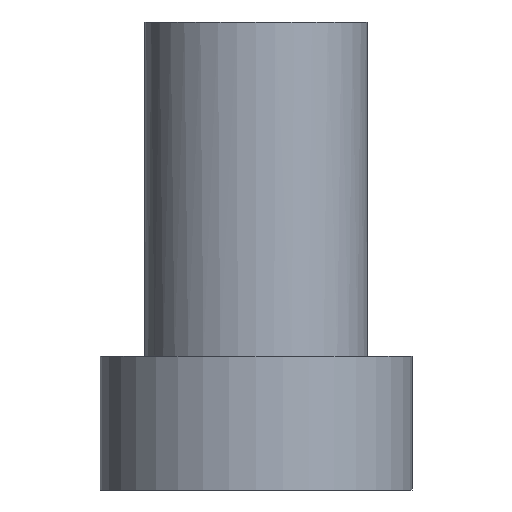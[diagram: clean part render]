
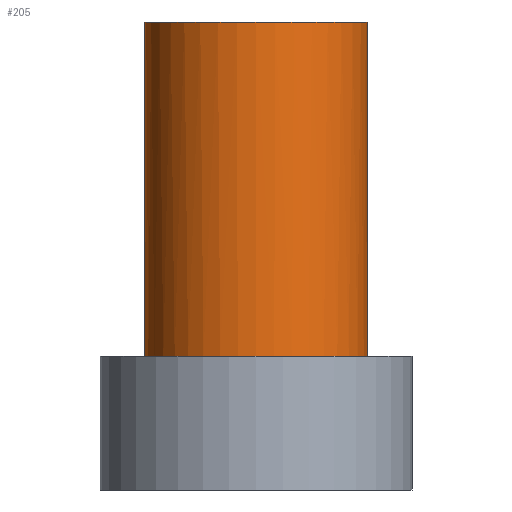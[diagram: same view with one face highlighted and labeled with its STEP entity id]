
A CAD part, left-side view. The second image highlights one B-rep face of the part: STEP entity #205.
In plain terms, the highlighted cylindrical face has radius 5 mm (diameter 10 mm), a full revolution.
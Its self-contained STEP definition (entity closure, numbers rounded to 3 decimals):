
#17=CYLINDRICAL_SURFACE('',#231,5.);
#34=LINE('',#334,#55);
#35=LINE('',#337,#56);
#36=LINE('',#341,#57);
#55=VECTOR('',#272,10.);
#56=VECTOR('',#275,5.);
#57=VECTOR('',#278,10.);
#67=FACE_OUTER_BOUND('',#78,.T.);
#78=EDGE_LOOP('',(#157,#158,#159,#160,#161,#162,#163,#164));
#85=CIRCLE('',#225,5.);
#86=CIRCLE('',#232,5.);
#87=CIRCLE('',#233,5.);
#88=CIRCLE('',#234,5.);
#91=VERTEX_POINT('',#300);
#101=VERTEX_POINT('',#328);
#103=VERTEX_POINT('',#332);
#104=VERTEX_POINT('',#336);
#105=VERTEX_POINT('',#338);
#106=VERTEX_POINT('',#340);
#109=EDGE_CURVE('',#91,#91,#85,.T.);
#125=EDGE_CURVE('',#101,#103,#34,.T.);
#126=EDGE_CURVE('',#91,#104,#35,.T.);
#127=EDGE_CURVE('',#105,#104,#86,.T.);
#128=EDGE_CURVE('',#106,#105,#36,.T.);
#129=EDGE_CURVE('',#106,#101,#87,.T.);
#130=EDGE_CURVE('',#104,#103,#88,.T.);
#157=ORIENTED_EDGE('',*,*,#109,.F.);
#158=ORIENTED_EDGE('',*,*,#126,.T.);
#159=ORIENTED_EDGE('',*,*,#127,.F.);
#160=ORIENTED_EDGE('',*,*,#128,.F.);
#161=ORIENTED_EDGE('',*,*,#129,.T.);
#162=ORIENTED_EDGE('',*,*,#125,.T.);
#163=ORIENTED_EDGE('',*,*,#130,.F.);
#164=ORIENTED_EDGE('',*,*,#126,.F.);
#205=ADVANCED_FACE('',(#67),#17,.T.);
#225=AXIS2_PLACEMENT_3D('',#301,#245,#246);
#231=AXIS2_PLACEMENT_3D('',#335,#273,#274);
#232=AXIS2_PLACEMENT_3D('',#339,#276,#277);
#233=AXIS2_PLACEMENT_3D('',#342,#279,#280);
#234=AXIS2_PLACEMENT_3D('',#343,#281,#282);
#245=DIRECTION('center_axis',(0.,0.,1.));
#246=DIRECTION('ref_axis',(-1.,0.,0.));
#272=DIRECTION('',(0.,0.,1.));
#273=DIRECTION('center_axis',(0.,0.,1.));
#274=DIRECTION('ref_axis',(1.,0.,0.));
#275=DIRECTION('',(0.,0.,-1.));
#276=DIRECTION('center_axis',(0.,0.,-1.));
#277=DIRECTION('ref_axis',(-1.,0.,0.));
#278=DIRECTION('',(0.,0.,1.));
#279=DIRECTION('center_axis',(0.,0.,1.));
#280=DIRECTION('ref_axis',(1.,0.,0.));
#281=DIRECTION('center_axis',(0.,0.,-1.));
#282=DIRECTION('ref_axis',(-1.,0.,0.));
#300=CARTESIAN_POINT('',(27.97,2.97,21.));
#301=CARTESIAN_POINT('Origin',(32.97,2.97,21.));
#328=CARTESIAN_POINT('',(33.301,7.959,0.));
#332=CARTESIAN_POINT('',(33.301,7.959,6.));
#334=CARTESIAN_POINT('',(33.301,7.959,0.));
#335=CARTESIAN_POINT('Origin',(32.97,2.97,0.));
#336=CARTESIAN_POINT('',(27.97,2.97,6.));
#337=CARTESIAN_POINT('',(27.97,2.97,0.));
#338=CARTESIAN_POINT('',(33.301,-2.019,6.));
#339=CARTESIAN_POINT('Origin',(32.97,2.97,6.));
#340=CARTESIAN_POINT('',(33.301,-2.019,0.));
#341=CARTESIAN_POINT('',(33.301,-2.019,0.));
#342=CARTESIAN_POINT('Origin',(32.97,2.97,0.));
#343=CARTESIAN_POINT('Origin',(32.97,2.97,6.));
